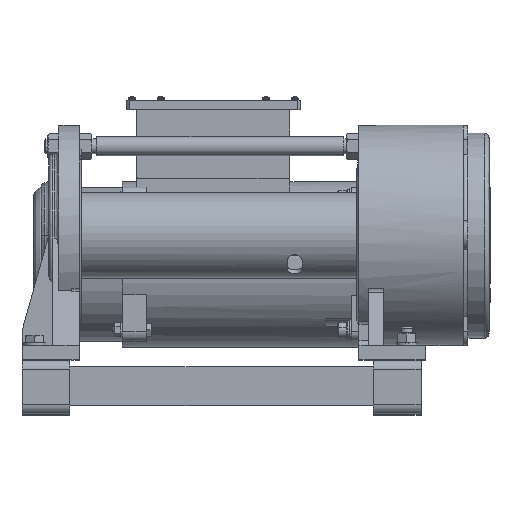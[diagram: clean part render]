
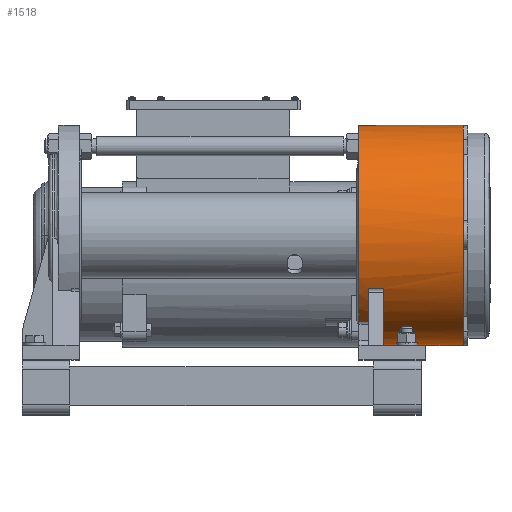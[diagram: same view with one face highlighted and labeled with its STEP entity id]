
A CAD part, top view. The second image highlights one B-rep face of the part: STEP entity #1518.
In plain terms, the highlighted cylindrical face has radius 115 mm (diameter 230 mm), a partial arc.
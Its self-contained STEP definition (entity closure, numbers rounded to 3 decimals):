
#1518=ADVANCED_FACE('',(#16246),#16245,.T.);
#16245=CYLINDRICAL_SURFACE('',#33941,115.);
#16246=FACE_OUTER_BOUND('',#33942,.T.);
#33938=CARTESIAN_POINT('',(1001.323,130.,1078.029));
#33939=DIRECTION('',(-1.,0.,0.));
#33940=DIRECTION('',(0.,-1.,0.));
#33941=AXIS2_PLACEMENT_3D('',#33938,#33939,#33940);
#33942=EDGE_LOOP('',(#47061,#47062,#47063,#47064,#47065,#47066,#47067,#47068,#47069,#47070,#47071,#47072,#47073,#47074));
#47061=ORIENTED_EDGE('',*,*,#55500,.T.);
#47062=ORIENTED_EDGE('',*,*,#51636,.F.);
#47063=ORIENTED_EDGE('',*,*,#55497,.F.);
#47064=ORIENTED_EDGE('',*,*,#55496,.F.);
#47065=ORIENTED_EDGE('',*,*,#51658,.F.);
#47066=ORIENTED_EDGE('',*,*,#55498,.F.);
#47067=ORIENTED_EDGE('',*,*,#51717,.F.);
#47068=ORIENTED_EDGE('',*,*,#51677,.F.);
#47069=ORIENTED_EDGE('',*,*,#52867,.T.);
#47070=ORIENTED_EDGE('',*,*,#51796,.F.);
#47071=ORIENTED_EDGE('',*,*,#51787,.T.);
#47072=ORIENTED_EDGE('',*,*,#51793,.T.);
#47073=ORIENTED_EDGE('',*,*,#51666,.T.);
#47074=ORIENTED_EDGE('',*,*,#53067,.F.);
#51636=EDGE_CURVE('',#58757,#58765,#58766,.T.);
#51658=EDGE_CURVE('',#58909,#58916,#58917,.T.);
#51666=EDGE_CURVE('',#58971,#58972,#58973,.T.);
#51677=EDGE_CURVE('',#59042,#59049,#59050,.T.);
#51717=EDGE_CURVE('',#59049,#59317,#59318,.T.);
#51787=EDGE_CURVE('',#59793,#59786,#59794,.T.);
#51793=EDGE_CURVE('',#59786,#58971,#59831,.T.);
#51796=EDGE_CURVE('',#59793,#59838,#59851,.T.);
#52867=EDGE_CURVE('',#59042,#59838,#67040,.T.);
#53067=EDGE_CURVE('',#59412,#58972,#68375,.T.);
#55496=EDGE_CURVE('',#58916,#77595,#84575,.T.);
#55497=EDGE_CURVE('',#77595,#58757,#84581,.T.);
#55498=EDGE_CURVE('',#59317,#58909,#84587,.T.);
#55500=EDGE_CURVE('',#59412,#58765,#84599,.T.);
#58757=VERTEX_POINT('',#96006);
#58765=VERTEX_POINT('',#96012);
#58766=CIRCLE('',#96016,115.);
#58909=VERTEX_POINT('',#96104);
#58916=VERTEX_POINT('',#96108);
#58917=CIRCLE('',#96112,115.);
#58971=VERTEX_POINT('',#96144);
#58972=VERTEX_POINT('',#96145);
#58973=CIRCLE('',#96149,115.);
#59042=VERTEX_POINT('',#96190);
#59049=VERTEX_POINT('',#96195);
#59050=LINE('',#96196,#96197);
#59317=VERTEX_POINT('',#96352);
#59318=CIRCLE('',#96356,115.);
#59412=VERTEX_POINT('',#96408);
#59786=VERTEX_POINT('',#96632);
#59793=VERTEX_POINT('',#96637);
#59794=CIRCLE('',#96641,115.);
#59831=LINE('',#96659,#96660);
#59838=VERTEX_POINT('',#96663);
#59851=LINE('',#96671,#96672);
#67040=CIRCLE('',#101552,115.);
#68375=LINE('',#102367,#102368);
#77595=VERTEX_POINT('',#109092);
#84575=CIRCLE('',#113547,115.);
#84581=CIRCLE('',#113551,115.);
#84587=LINE('',#113552,#113553);
#84599=LINE('',#113558,#113559);
#96006=CARTESIAN_POINT('',(1019.323,15.144,1083.779));
#96012=CARTESIAN_POINT('',(1019.323,15.,1078.029));
#96013=CARTESIAN_POINT('',(1019.323,130.,1078.029));
#96014=DIRECTION('',(1.,0.,0.));
#96015=DIRECTION('',(0.,-1.,0.));
#96016=AXIS2_PLACEMENT_3D('',#96013,#96014,#96015);
#96104=CARTESIAN_POINT('',(1019.323,245.,1078.029));
#96108=CARTESIAN_POINT('',(1019.323,244.856,1083.779));
#96109=CARTESIAN_POINT('',(1019.323,130.,1078.029));
#96110=DIRECTION('',(1.,0.,0.));
#96111=DIRECTION('',(0.,-1.,0.));
#96112=AXIS2_PLACEMENT_3D('',#96109,#96110,#96111);
#96144=CARTESIAN_POINT('',(934.323,40.228,1149.904));
#96145=CARTESIAN_POINT('',(934.323,15.,1078.029));
#96146=CARTESIAN_POINT('',(934.323,130.,1078.029));
#96147=DIRECTION('',(1.,0.,0.));
#96148=DIRECTION('',(0.,1.,0.));
#96149=AXIS2_PLACEMENT_3D('',#96146,#96147,#96148);
#96190=CARTESIAN_POINT('',(920.323,40.228,1149.904));
#96195=CARTESIAN_POINT('',(910.323,40.228,1149.904));
#96196=CARTESIAN_POINT('',(920.323,40.228,1149.904));
#96197=VECTOR('',#96198,10.);
#96198=DIRECTION('',(-1.,0.,0.));
#96352=CARTESIAN_POINT('',(910.323,245.,1078.029));
#96353=CARTESIAN_POINT('',(910.323,130.,1078.029));
#96354=DIRECTION('',(-1.,0.,0.));
#96355=DIRECTION('',(0.,1.,0.));
#96356=AXIS2_PLACEMENT_3D('',#96353,#96354,#96355);
#96408=CARTESIAN_POINT('',(980.323,15.,1078.029));
#96632=CARTESIAN_POINT('',(936.323,40.228,1149.904));
#96637=CARTESIAN_POINT('',(936.323,74.243,1178.608));
#96638=CARTESIAN_POINT('',(936.323,130.,1078.029));
#96639=DIRECTION('',(1.,0.,0.));
#96640=DIRECTION('',(0.,-1.,0.));
#96641=AXIS2_PLACEMENT_3D('',#96638,#96639,#96640);
#96659=CARTESIAN_POINT('',(936.323,40.228,1149.904));
#96660=VECTOR('',#96661,2.);
#96661=DIRECTION('',(-1.,0.,0.));
#96663=CARTESIAN_POINT('',(920.323,74.243,1178.608));
#96671=CARTESIAN_POINT('',(936.323,74.243,1178.608));
#96672=VECTOR('',#96673,16.);
#96673=DIRECTION('',(-1.,0.,0.));
#101549=CARTESIAN_POINT('',(920.323,130.,1078.029));
#101550=DIRECTION('',(-1.,0.,0.));
#101551=DIRECTION('',(0.,1.,0.));
#101552=AXIS2_PLACEMENT_3D('',#101549,#101550,#101551);
#102367=CARTESIAN_POINT('',(980.323,15.,1078.029));
#102368=VECTOR('',#102369,46.);
#102369=DIRECTION('',(-1.,0.,0.));
#109092=CARTESIAN_POINT('',(1019.323,130.,1193.029));
#113544=CARTESIAN_POINT('',(1019.323,130.,1078.029));
#113545=DIRECTION('',(1.,0.,0.));
#113546=DIRECTION('',(0.,-1.,0.));
#113547=AXIS2_PLACEMENT_3D('',#113544,#113545,#113546);
#113548=CARTESIAN_POINT('',(1019.323,130.,1078.029));
#113549=DIRECTION('',(1.,0.,0.));
#113550=DIRECTION('',(0.,-1.,0.));
#113551=AXIS2_PLACEMENT_3D('',#113548,#113549,#113550);
#113552=CARTESIAN_POINT('',(910.323,245.,1078.029));
#113553=VECTOR('',#113554,109.);
#113554=DIRECTION('',(1.,0.,0.));
#113558=CARTESIAN_POINT('',(980.323,15.,1078.029));
#113559=VECTOR('',#113560,39.);
#113560=DIRECTION('',(1.,0.,0.));
